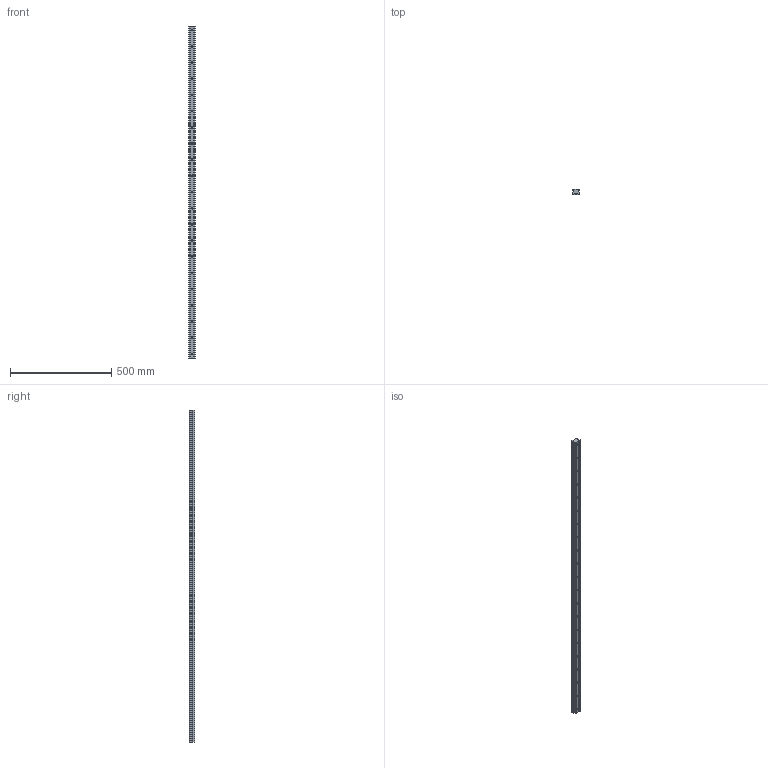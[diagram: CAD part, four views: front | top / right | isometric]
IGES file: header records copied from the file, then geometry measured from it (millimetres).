
Start section: SolidWorks IGES file using analytic representation for surfaces
Global section: file name: C:\Users\IanO\Desktop\Temp File\GENERAL\L1016_v2\L1016.RF35_v2\L1016.RF35_v2_20190612_IGES\L1016.RF35-1640.igs; native system: SolidWorks 2017; preprocessor: SolidWorks 2017; author: IanO; date: 190613.172816; units: millimetre
Bounding box: 34 x 26 x 1640 mm (x, y, z)
Surface area: 214440.7 mm2 (no closed solid volume)
Topology: 0 solids, 0 shells, 173 faces, 2688 edges, 2646 vertices
Faces by surface type: revolution 130, bspline 43
